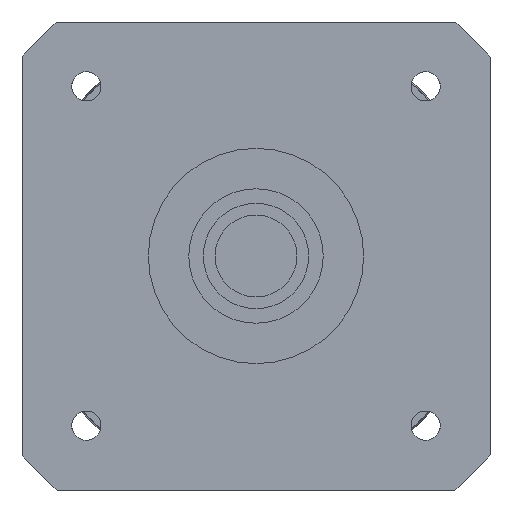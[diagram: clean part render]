
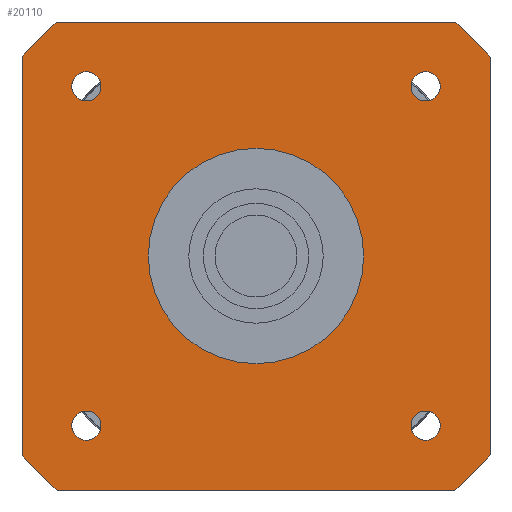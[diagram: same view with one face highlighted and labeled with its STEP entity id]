
A CAD part, left-side view. The second image highlights one B-rep face of the part: STEP entity #20110.
In plain terms, the highlighted planar face has unit normal (-1, 0, 0) as drawn and (0, 0, -1) by its records, which use the part's own axes.
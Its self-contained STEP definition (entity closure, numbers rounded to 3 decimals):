
#14170=CARTESIAN_POINT('',(-34.004,-40.,-44.));
#14180=VERTEX_POINT('',#14170);
#14330=CARTESIAN_POINT('',(34.004,-40.,-44.));
#14340=VERTEX_POINT('',#14330);
#14370=CARTESIAN_POINT('',(-40.,-40.,-44.));
#14380=DIRECTION('',(1.,0.,0.));
#14390=VECTOR('',#14380,1000.);
#14400=LINE('',#14370,#14390);
#14410=EDGE_CURVE('',#14180,#14340,#14400,.T.);
#18300=CARTESIAN_POINT('',(-28.998,31.498,-44.));
#18310=VERTEX_POINT('',#18300);
#18490=CARTESIAN_POINT('',(-28.998,26.498,-44.));
#18500=VERTEX_POINT('',#18490);
#18530=CARTESIAN_POINT('',(-28.998,28.998,-44.));
#18540=DIRECTION('',(0.,0.,-1.));
#18550=DIRECTION('',(1.,0.,0.));
#18560=AXIS2_PLACEMENT_3D('',#18530,#18540,#18550);
#18570=CIRCLE('',#18560,2.5);
#18580=CARTESIAN_POINT('',(-26.498,28.998,-44.));
#18590=VERTEX_POINT('',#18580);
#18600=EDGE_CURVE('',#18590,#18500,#18570,.T.);
#18620=EDGE_CURVE('',#18310,#18590,#18570,.T.);
#18670=CARTESIAN_POINT('',(40.,40.,-44.));
#18680=DIRECTION('',(0.,0.,1.));
#18690=DIRECTION('',(0.,1.,0.));
#18700=AXIS2_PLACEMENT_3D('',#18670,#18680,#18690);
#18710=PLANE('',#18700);
#18720=CARTESIAN_POINT('',(28.998,28.998,-44.));
#18730=DIRECTION('',(0.,0.,-1.));
#18740=DIRECTION('',(1.,0.,0.));
#18750=AXIS2_PLACEMENT_3D('',#18720,#18730,#18740);
#18760=CIRCLE('',#18750,2.5);
#18770=CARTESIAN_POINT('',(31.498,28.998,-44.));
#18780=VERTEX_POINT('',#18770);
#18790=CARTESIAN_POINT('',(28.998,26.498,-44.));
#18800=VERTEX_POINT('',#18790);
#18810=EDGE_CURVE('',#18780,#18800,#18760,.T.);
#18820=ORIENTED_EDGE('',*,*,#18810,.F.);
#18830=CARTESIAN_POINT('',(28.998,31.498,-44.));
#18840=VERTEX_POINT('',#18830);
#18850=EDGE_CURVE('',#18800,#18840,#18760,.T.);
#18860=ORIENTED_EDGE('',*,*,#18850,.F.);
#18870=EDGE_CURVE('',#18840,#18780,#18760,.T.);
#18880=ORIENTED_EDGE('',*,*,#18870,.F.);
#18890=EDGE_LOOP('',(#18880,#18860,#18820));
#18900=FACE_BOUND('',#18890,.T.);
#18910=ORIENTED_EDGE('',*,*,#18600,.F.);
#18920=EDGE_CURVE('',#18500,#18310,#18570,.T.);
#18930=ORIENTED_EDGE('',*,*,#18920,.F.);
#18940=ORIENTED_EDGE('',*,*,#18620,.F.);
#18950=EDGE_LOOP('',(#18940,#18930,#18910));
#18960=FACE_BOUND('',#18950,.T.);
#18970=CARTESIAN_POINT('',(0.,0.,-44.));
#18980=DIRECTION('',(0.,0.,1.));
#18990=DIRECTION('',(0.,-1.,0.));
#19000=AXIS2_PLACEMENT_3D('',#18970,#18980,#18990);
#19010=CIRCLE('',#19000,18.4);
#19020=CARTESIAN_POINT('',(0.,-18.4,-44.));
#19030=VERTEX_POINT('',#19020);
#19040=CARTESIAN_POINT('',(0.,18.4,-44.));
#19050=VERTEX_POINT('',#19040);
#19060=EDGE_CURVE('',#19030,#19050,#19010,.T.);
#19070=ORIENTED_EDGE('',*,*,#19060,.T.);
#19080=EDGE_CURVE('',#19050,#19030,#19010,.T.);
#19090=ORIENTED_EDGE('',*,*,#19080,.T.);
#19100=EDGE_LOOP('',(#19090,#19070));
#19110=FACE_BOUND('',#19100,.T.);
#19120=CARTESIAN_POINT('',(-28.998,-28.998,-44.));
#19130=DIRECTION('',(0.,0.,-1.));
#19140=DIRECTION('',(1.,0.,0.));
#19150=AXIS2_PLACEMENT_3D('',#19120,#19130,#19140);
#19160=CIRCLE('',#19150,2.5);
#19170=CARTESIAN_POINT('',(-26.498,-28.998,-44.));
#19180=VERTEX_POINT('',#19170);
#19190=CARTESIAN_POINT('',(-28.998,-31.498,-44.));
#19200=VERTEX_POINT('',#19190);
#19210=EDGE_CURVE('',#19180,#19200,#19160,.T.);
#19220=ORIENTED_EDGE('',*,*,#19210,.F.);
#19230=CARTESIAN_POINT('',(-28.998,-26.498,-44.));
#19240=VERTEX_POINT('',#19230);
#19250=EDGE_CURVE('',#19200,#19240,#19160,.T.);
#19260=ORIENTED_EDGE('',*,*,#19250,.F.);
#19270=EDGE_CURVE('',#19240,#19180,#19160,.T.);
#19280=ORIENTED_EDGE('',*,*,#19270,.F.);
#19290=EDGE_LOOP('',(#19280,#19260,#19220));
#19300=FACE_BOUND('',#19290,.T.);
#19310=CARTESIAN_POINT('',(28.998,-28.998,-44.));
#19320=DIRECTION('',(0.,0.,-1.));
#19330=DIRECTION('',(1.,0.,0.));
#19340=AXIS2_PLACEMENT_3D('',#19310,#19320,#19330);
#19350=CIRCLE('',#19340,2.5);
#19360=CARTESIAN_POINT('',(31.498,-28.998,-44.));
#19370=VERTEX_POINT('',#19360);
#19380=CARTESIAN_POINT('',(28.998,-31.498,-44.));
#19390=VERTEX_POINT('',#19380);
#19400=EDGE_CURVE('',#19370,#19390,#19350,.T.);
#19410=ORIENTED_EDGE('',*,*,#19400,.F.);
#19420=CARTESIAN_POINT('',(28.998,-26.498,-44.));
#19430=VERTEX_POINT('',#19420);
#19440=EDGE_CURVE('',#19390,#19430,#19350,.T.);
#19450=ORIENTED_EDGE('',*,*,#19440,.F.);
#19460=EDGE_CURVE('',#19430,#19370,#19350,.T.);
#19470=ORIENTED_EDGE('',*,*,#19460,.F.);
#19480=EDGE_LOOP('',(#19470,#19450,#19410));
#19490=FACE_BOUND('',#19480,.T.);
#19500=CARTESIAN_POINT('',(0.,0.,
-44.));
#19510=DIRECTION('',(0.,0.,1.));
#19520=DIRECTION('',(1.,0.,0.));
#19530=AXIS2_PLACEMENT_3D('',#19500,#19510,#19520);
#19540=CIRCLE('',#19530,52.5);
#19550=CARTESIAN_POINT('',(-34.004,40.,-44.));
#19560=VERTEX_POINT('',#19550);
#19570=CARTESIAN_POINT('',(-40.,34.004,-44.));
#19580=VERTEX_POINT('',#19570);
#19590=EDGE_CURVE('',#19560,#19580,#19540,.T.);
#19600=ORIENTED_EDGE('',*,*,#19590,.F.);
#19610=CARTESIAN_POINT('',(-40.,40.,-44.));
#19620=DIRECTION('',(0.,-1.,0.));
#19630=VECTOR('',#19620,1000.);
#19640=LINE('',#19610,#19630);
#19650=CARTESIAN_POINT('',(-40.,-34.004,-44.));
#19660=VERTEX_POINT('',#19650);
#19670=EDGE_CURVE('',#19580,#19660,#19640,.T.);
#19680=ORIENTED_EDGE('',*,*,#19670,.F.);
#19690=CARTESIAN_POINT('',(0.,0.,
-44.));
#19700=DIRECTION('',(0.,0.,1.));
#19710=DIRECTION('',(1.,0.,0.));
#19720=AXIS2_PLACEMENT_3D('',#19690,#19700,#19710);
#19730=CIRCLE('',#19720,52.5);
#19740=EDGE_CURVE('',#19660,#14180,#19730,.T.);
#19750=ORIENTED_EDGE('',*,*,#19740,.F.);
#19760=ORIENTED_EDGE('',*,*,#14410,.F.);
#19770=CARTESIAN_POINT('',(0.,0.,
-44.));
#19780=DIRECTION('',(0.,0.,1.));
#19790=DIRECTION('',(1.,0.,0.));
#19800=AXIS2_PLACEMENT_3D('',#19770,#19780,#19790);
#19810=CIRCLE('',#19800,52.5);
#19820=CARTESIAN_POINT('',(40.,-34.004,-44.));
#19830=VERTEX_POINT('',#19820);
#19840=EDGE_CURVE('',#14340,#19830,#19810,.T.);
#19850=ORIENTED_EDGE('',*,*,#19840,.F.);
#19860=CARTESIAN_POINT('',(40.,-40.,-44.));
#19870=DIRECTION('',(0.,1.,0.));
#19880=VECTOR('',#19870,1000.);
#19890=LINE('',#19860,#19880);
#19900=CARTESIAN_POINT('',(40.,34.004,-44.));
#19910=VERTEX_POINT('',#19900);
#19920=EDGE_CURVE('',#19830,#19910,#19890,.T.);
#19930=ORIENTED_EDGE('',*,*,#19920,.F.);
#19940=CARTESIAN_POINT('',(0.,0.,
-44.));
#19950=DIRECTION('',(0.,0.,1.));
#19960=DIRECTION('',(1.,0.,0.));
#19970=AXIS2_PLACEMENT_3D('',#19940,#19950,#19960);
#19980=CIRCLE('',#19970,52.5);
#19990=CARTESIAN_POINT('',(34.004,40.,-44.));
#20000=VERTEX_POINT('',#19990);
#20010=EDGE_CURVE('',#19910,#20000,#19980,.T.);
#20020=ORIENTED_EDGE('',*,*,#20010,.F.);
#20030=CARTESIAN_POINT('',(40.,40.,-44.));
#20040=DIRECTION('',(-1.,0.,0.));
#20050=VECTOR('',#20040,1000.);
#20060=LINE('',#20030,#20050);
#20070=EDGE_CURVE('',#20000,#19560,#20060,.T.);
#20080=ORIENTED_EDGE('',*,*,#20070,.F.);
#20090=EDGE_LOOP('',(#20080,#20020,#19930,#19850,#19760,#19750,#19680,
#19600));
#20100=FACE_OUTER_BOUND('',#20090,.T.);
#20110=ADVANCED_FACE('',(#18900,#18960,#19110,#19300,#19490,#20100),
#18710,.F.);
